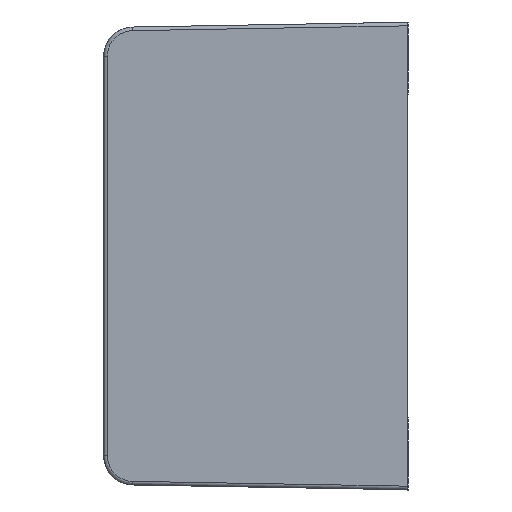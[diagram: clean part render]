
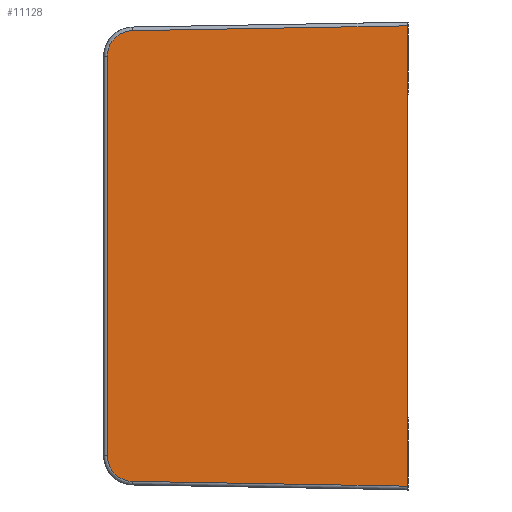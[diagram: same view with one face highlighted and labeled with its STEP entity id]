
A CAD part, left-side view. The second image highlights one B-rep face of the part: STEP entity #11128.
In plain terms, the highlighted planar face has unit normal (-1, 0.018, 0).
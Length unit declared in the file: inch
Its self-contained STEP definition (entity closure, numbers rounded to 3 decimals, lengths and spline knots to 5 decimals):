
#26 = EDGE_LOOP ( 'NONE', ( #15409, #15351, #15433, #14128, #13850, #14106 ) ) ;
#2267 = VERTEX_POINT ( 'NONE', #29056 ) ;
#2323 = VERTEX_POINT ( 'NONE', #29095 ) ;
#3085 = CARTESIAN_POINT ( 'NONE',  ( -2.45522, 2.56554, 1.70901 ) ) ;
#3091 = CARTESIAN_POINT ( 'NONE',  ( -2.45897, 2.35036, 1.92798 ) ) ;
#3665 = DIRECTION ( 'NONE',  ( 0., 0., 1. ) ) ;
#3761 = LINE ( 'NONE', #3824, #24941 ) ;
#3824 = CARTESIAN_POINT ( 'NONE',  ( -2.5, 0., 2. ) ) ;
#3956 = CARTESIAN_POINT ( 'NONE',  ( -2.45897, 2.35036, -1.92798 ) ) ;
#3989 = CARTESIAN_POINT ( 'NONE',  ( -2.45522, 2.56554, -1.70901 ) ) ;
#7591 = VERTEX_POINT ( 'NONE', #3989 ) ;
#7750 = VERTEX_POINT ( 'NONE', #3956 ) ;
#7868 = VERTEX_POINT ( 'NONE', #3091 ) ;
#7912 = VERTEX_POINT ( 'NONE', #3085 ) ;
#10273 = VECTOR ( 'NONE', #19259, 39.37008 ) ;
#10309 = VECTOR ( 'NONE', #19267, 39.37008 ) ;
#10319 = VECTOR ( 'NONE', #19252, 39.37008 ) ;
#10343 =( BOUNDED_CURVE ( )  B_SPLINE_CURVE ( 3, ( #19248, #19254, #19255, #19256 ),
 .UNSPECIFIED., .F., .T. ) 
 B_SPLINE_CURVE_WITH_KNOTS ( ( 4, 4 ),
 ( 4.72984, 6.28319 ),
 .UNSPECIFIED. ) 
 CURVE ( )  GEOMETRIC_REPRESENTATION_ITEM ( )  RATIONAL_B_SPLINE_CURVE ( ( 1., 0.809, 0.809, 1. ) ) 
 REPRESENTATION_ITEM ( '' )  );
#10344 =( BOUNDED_CURVE ( )  B_SPLINE_CURVE ( 3, ( #19253, #19262, #19263, #19264 ),
 .UNSPECIFIED., .F., .T. ) 
 B_SPLINE_CURVE_WITH_KNOTS ( ( 4, 4 ),
 ( 3.14159, 4.69494 ),
 .UNSPECIFIED. ) 
 CURVE ( )  GEOMETRIC_REPRESENTATION_ITEM ( )  RATIONAL_B_SPLINE_CURVE ( ( 1., 0.809, 0.809, 1. ) ) 
 REPRESENTATION_ITEM ( '' )  );
#11064 = EDGE_CURVE ( 'NONE', #2267, #2323, #3761, .T. ) ;
#11128 = ADVANCED_FACE ( 'NONE', ( #21718 ), #21713, .T. ) ;
#12463 = EDGE_CURVE ( 'NONE', #2323, #7868, #19241, .T. ) ;
#12464 = EDGE_CURVE ( 'NONE', #7868, #7912, #10343, .T. ) ;
#12465 = EDGE_CURVE ( 'NONE', #7912, #7591, #19257, .T. ) ;
#12466 = EDGE_CURVE ( 'NONE', #7591, #7750, #10344, .T. ) ;
#12467 = EDGE_CURVE ( 'NONE', #7750, #2267, #19265, .T. ) ;
#13850 = ORIENTED_EDGE ( 'NONE', *, *, #12466, .T. ) ;
#14106 = ORIENTED_EDGE ( 'NONE', *, *, #12467, .T. ) ;
#14128 = ORIENTED_EDGE ( 'NONE', *, *, #12465, .T. ) ;
#15351 = ORIENTED_EDGE ( 'NONE', *, *, #12463, .T. ) ;
#15409 = ORIENTED_EDGE ( 'NONE', *, *, #11064, .T. ) ;
#15433 = ORIENTED_EDGE ( 'NONE', *, *, #12464, .T. ) ;
#19240 = CARTESIAN_POINT ( 'NONE',  ( -2.50001, -0.00054, 1.96901 ) ) ;
#19241 = LINE ( 'NONE', #19240, #10319 ) ;
#19248 = CARTESIAN_POINT ( 'NONE',  ( -2.45897, 2.35036, 1.92798 ) ) ;
#19252 = DIRECTION ( 'NONE',  ( 0.017, 1., -0.017 ) ) ;
#19253 = CARTESIAN_POINT ( 'NONE',  ( -2.45522, 2.56554, -1.70901 ) ) ;
#19254 = CARTESIAN_POINT ( 'NONE',  ( -2.45677, 2.47686, 1.92577 ) ) ;
#19255 = CARTESIAN_POINT ( 'NONE',  ( -2.45522, 2.56554, 1.83553 ) ) ;
#19256 = CARTESIAN_POINT ( 'NONE',  ( -2.45522, 2.56554, 1.70901 ) ) ;
#19257 = LINE ( 'NONE', #19258, #10273 ) ;
#19258 = CARTESIAN_POINT ( 'NONE',  ( -2.45522, 2.56554, -1.70901 ) ) ;
#19259 = DIRECTION ( 'NONE',  ( 0., 0., -1. ) ) ;
#19262 = CARTESIAN_POINT ( 'NONE',  ( -2.45522, 2.56554, -1.83553 ) ) ;
#19263 = CARTESIAN_POINT ( 'NONE',  ( -2.45677, 2.47686, -1.92577 ) ) ;
#19264 = CARTESIAN_POINT ( 'NONE',  ( -2.45897, 2.35036, -1.92798 ) ) ;
#19265 = LINE ( 'NONE', #19266, #10309 ) ;
#19266 = CARTESIAN_POINT ( 'NONE',  ( -2.49879, 0.06924, -1.9678 ) ) ;
#19267 = DIRECTION ( 'NONE',  ( -0.017, -1., -0.017 ) ) ;
#21713 = PLANE ( 'NONE',  #26537 ) ;
#21715 = CARTESIAN_POINT ( 'NONE',  ( -2.5, 0., 2. ) ) ;
#21718 = FACE_OUTER_BOUND ( 'NONE', #26, .T. ) ;
#21720 = DIRECTION ( 'NONE',  ( -1., 0.017, 0. ) ) ;
#21721 = DIRECTION ( 'NONE',  ( -0.017, -1., 0. ) ) ;
#24941 = VECTOR ( 'NONE', #3665, 39.37008 ) ;
#26537 = AXIS2_PLACEMENT_3D ( 'NONE', #21715, #21720, #21721 ) ;
#29056 = CARTESIAN_POINT ( 'NONE',  ( -2.5, 0., -1.969 ) ) ;
#29095 = CARTESIAN_POINT ( 'NONE',  ( -2.5, 0., 1.969 ) ) ;
